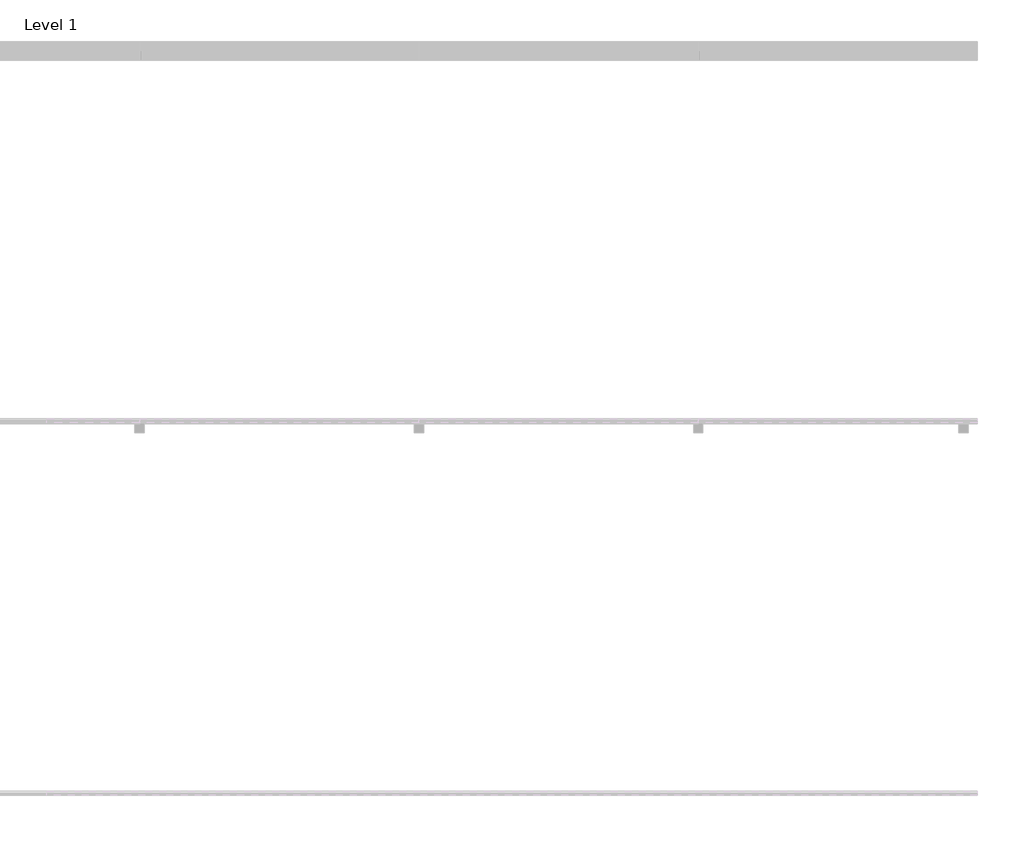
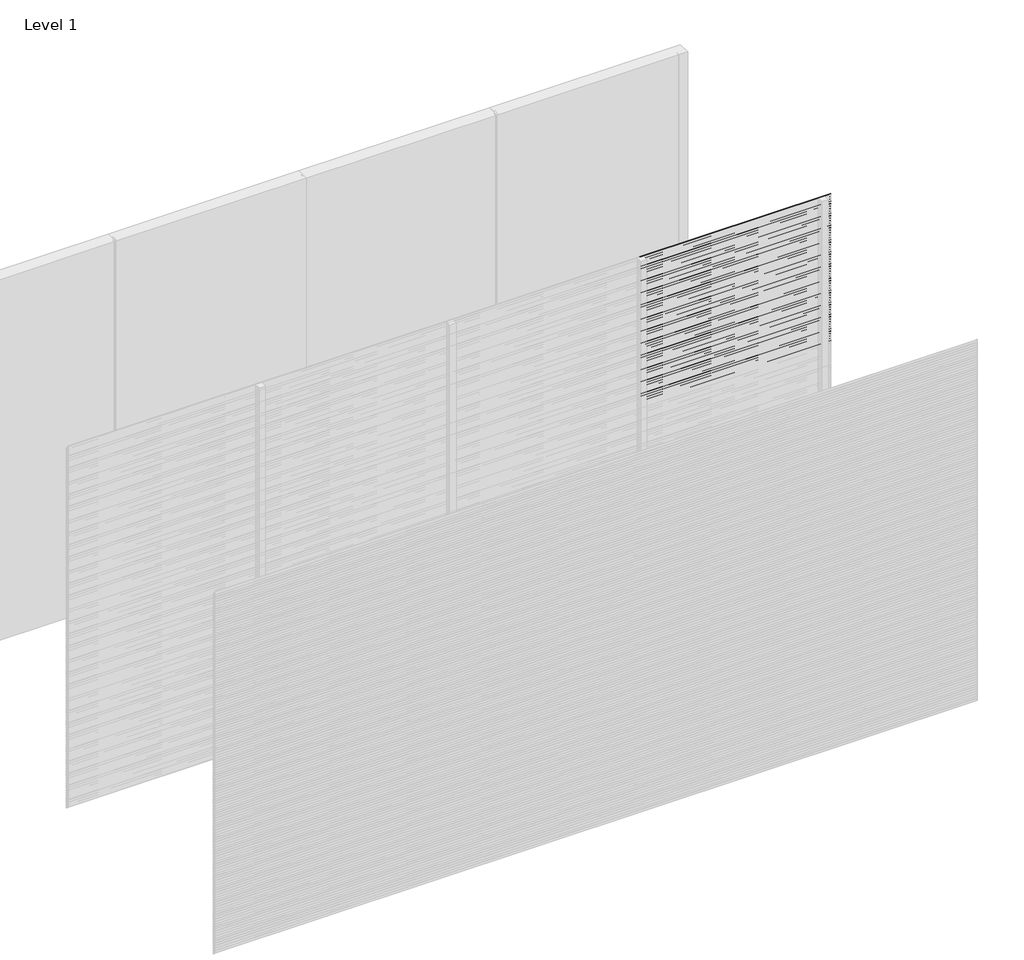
# One storey, part 15 of 31: 98 proxies.
"""IFC4 building model written with IfcOpenShell, lengths in millimetres."""

from ifc_helpers import new_model, si_unit, frame, origin, place, context, project, spatial, polyline, outline, extrude, element, save

model = new_model("IFC4")

# Units and contexts
model_context = context("Model", 3, world=origin())
ifc_project = project(units=[si_unit("LENGTHUNIT", "METRE", prefix="MILLI")], contexts=[model_context])

# Site, building, storey
site = spatial("IfcSite", under=ifc_project)
building = spatial("IfcBuilding", under=site)
storey = spatial("IfcBuildingStorey", under=building, Name="Level 1", Elevation=0.0)

# Proxies
placement = place(None, origin())
element("IfcBuildingElementProxy", 1, Name="Wall Sweeps", at=placement, inside=storey, context=model_context, shape_type="SweptSolid", body=[
    extrude(outline(polyline([(-11995.0, 740.0), (-11995.0, 728.942893), (-11976.0, 713.0), (-11976.0, 700.0), (-11997.0, 717.6210923), (-11997.0, 740.0), (-11995.0, 740.0)])), frame((3000.0, 0.0, 0.0), z_axis=(1.0, 0.0, 0.0), x_axis=(0.0, 1.0, 0.0)), (0.0, 0.0, 1.0), 1500.0),
])
element("IfcBuildingElementProxy", 2, Name="Wall Sweeps", at=placement, inside=storey, context=model_context, shape_type="SweptSolid", body=[
    extrude(outline(polyline([(-11995.0, 720.0), (-11995.0, 708.942893), (-11976.0, 693.0), (-11976.0, 680.0), (-11997.0, 697.6210923), (-11997.0, 720.0), (-11995.0, 720.0)])), frame((3000.0, 0.0, 0.0), z_axis=(1.0, 0.0, 0.0), x_axis=(0.0, 1.0, 0.0)), (0.0, 0.0, 1.0), 1500.0),
])
element("IfcBuildingElementProxy", 3, Name="Wall Sweeps", at=placement, inside=storey, context=model_context, shape_type="SweptSolid", body=[
    extrude(outline(polyline([(-11995.0, 700.0), (-11995.0, 688.942893), (-11976.0, 673.0), (-11976.0, 660.0), (-11997.0, 677.6210923), (-11997.0, 700.0), (-11995.0, 700.0)])), frame((3000.0, 0.0, 0.0), z_axis=(1.0, 0.0, 0.0), x_axis=(0.0, 1.0, 0.0)), (0.0, 0.0, 1.0), 1500.0),
])
element("IfcBuildingElementProxy", 4, Name="Wall Sweeps", at=placement, inside=storey, context=model_context, shape_type="SweptSolid", body=[
    extrude(outline(polyline([(-11995.0, 680.0), (-11995.0, 668.942893), (-11976.0, 653.0), (-11976.0, 640.0), (-11997.0, 657.6210923), (-11997.0, 680.0), (-11995.0, 680.0)])), frame((3000.0, 0.0, 0.0), z_axis=(1.0, 0.0, 0.0), x_axis=(0.0, 1.0, 0.0)), (0.0, 0.0, 1.0), 1500.0),
])
element("IfcBuildingElementProxy", 5, Name="Wall Sweeps", at=placement, inside=storey, context=model_context, shape_type="SweptSolid", body=[
    extrude(outline(polyline([(-11995.0, 660.0), (-11995.0, 648.942893), (-11976.0, 633.0), (-11976.0, 620.0), (-11997.0, 637.6210923), (-11997.0, 660.0), (-11995.0, 660.0)])), frame((3000.0, 0.0, 0.0), z_axis=(1.0, 0.0, 0.0), x_axis=(0.0, 1.0, 0.0)), (0.0, 0.0, 1.0), 1500.0),
])
element("IfcBuildingElementProxy", 6, Name="Wall Sweeps", at=placement, inside=storey, context=model_context, shape_type="SweptSolid", body=[
    extrude(outline(polyline([(-11995.0, 640.0), (-11995.0, 628.942893), (-11976.0, 613.0), (-11976.0, 600.0), (-11997.0, 617.6210923), (-11997.0, 640.0), (-11995.0, 640.0)])), frame((3000.0, 0.0, 0.0), z_axis=(1.0, 0.0, 0.0), x_axis=(0.0, 1.0, 0.0)), (0.0, 0.0, 1.0), 1500.0),
])
element("IfcBuildingElementProxy", 7, Name="Wall Sweeps", at=placement, inside=storey, context=model_context, shape_type="SweptSolid", body=[
    extrude(outline(polyline([(-11995.0, 620.0), (-11995.0, 608.942893), (-11976.0, 593.0), (-11976.0, 580.0), (-11997.0, 597.6210923), (-11997.0, 620.0), (-11995.0, 620.0)])), frame((3000.0, 0.0, 0.0), z_axis=(1.0, 0.0, 0.0), x_axis=(0.0, 1.0, 0.0)), (0.0, 0.0, 1.0), 1500.0),
])
element("IfcBuildingElementProxy", 8, Name="Wall Sweeps", at=placement, inside=storey, context=model_context, shape_type="SweptSolid", body=[
    extrude(outline(polyline([(-11995.0, 600.0), (-11995.0, 588.942893), (-11976.0, 573.0), (-11976.0, 560.0), (-11997.0, 577.6210923), (-11997.0, 600.0), (-11995.0, 600.0)])), frame((3000.0, 0.0, 0.0), z_axis=(1.0, 0.0, 0.0), x_axis=(0.0, 1.0, 0.0)), (0.0, 0.0, 1.0), 1500.0),
])
element("IfcBuildingElementProxy", 9, Name="Wall Sweeps", at=placement, inside=storey, context=model_context, shape_type="SweptSolid", body=[
    extrude(outline(polyline([(-11995.0, 580.0), (-11995.0, 568.942893), (-11976.0, 553.0), (-11976.0, 540.0), (-11997.0, 557.6210923), (-11997.0, 580.0), (-11995.0, 580.0)])), frame((3000.0, 0.0, 0.0), z_axis=(1.0, 0.0, 0.0), x_axis=(0.0, 1.0, 0.0)), (0.0, 0.0, 1.0), 1500.0),
])
element("IfcBuildingElementProxy", 10, Name="Wall Sweeps", at=placement, inside=storey, context=model_context, shape_type="SweptSolid", body=[
    extrude(outline(polyline([(-11995.0, 560.0), (-11995.0, 548.942893), (-11976.0, 533.0), (-11976.0, 520.0), (-11997.0, 537.6210923), (-11997.0, 560.0), (-11995.0, 560.0)])), frame((3000.0, 0.0, 0.0), z_axis=(1.0, 0.0, 0.0), x_axis=(0.0, 1.0, 0.0)), (0.0, 0.0, 1.0), 1500.0),
])
element("IfcBuildingElementProxy", 11, Name="Wall Sweeps", at=placement, inside=storey, context=model_context, shape_type="SweptSolid", body=[
    extrude(outline(polyline([(-11995.0, 540.0), (-11995.0, 528.942893), (-11976.0, 513.0), (-11976.0, 500.0), (-11997.0, 517.6210923), (-11997.0, 540.0), (-11995.0, 540.0)])), frame((3000.0, 0.0, 0.0), z_axis=(1.0, 0.0, 0.0), x_axis=(0.0, 1.0, 0.0)), (0.0, 0.0, 1.0), 1500.0),
])
element("IfcBuildingElementProxy", 12, Name="Wall Sweeps", at=placement, inside=storey, context=model_context, shape_type="SweptSolid", body=[
    extrude(outline(polyline([(-11995.0, 520.0), (-11995.0, 508.942893), (-11976.0, 493.0), (-11976.0, 480.0), (-11997.0, 497.6210923), (-11997.0, 520.0), (-11995.0, 520.0)])), frame((3000.0, 0.0, 0.0), z_axis=(1.0, 0.0, 0.0), x_axis=(0.0, 1.0, 0.0)), (0.0, 0.0, 1.0), 1500.0),
])
element("IfcBuildingElementProxy", 13, Name="Wall Sweeps", at=placement, inside=storey, context=model_context, shape_type="SweptSolid", body=[
    extrude(outline(polyline([(-11995.0, 500.0), (-11995.0, 488.942893), (-11976.0, 473.0), (-11976.0, 460.0), (-11997.0, 477.6210923), (-11997.0, 500.0), (-11995.0, 500.0)])), frame((3000.0, 0.0, 0.0), z_axis=(1.0, 0.0, 0.0), x_axis=(0.0, 1.0, 0.0)), (0.0, 0.0, 1.0), 1500.0),
])
element("IfcBuildingElementProxy", 14, Name="Wall Sweeps", at=placement, inside=storey, context=model_context, shape_type="SweptSolid", body=[
    extrude(outline(polyline([(-11995.0, 480.0), (-11995.0, 468.942893), (-11976.0, 453.0), (-11976.0, 440.0), (-11997.0, 457.6210923), (-11997.0, 480.0), (-11995.0, 480.0)])), frame((3000.0, 0.0, 0.0), z_axis=(1.0, 0.0, 0.0), x_axis=(0.0, 1.0, 0.0)), (0.0, 0.0, 1.0), 1500.0),
])
element("IfcBuildingElementProxy", 15, Name="Wall Sweeps", at=placement, inside=storey, context=model_context, shape_type="SweptSolid", body=[
    extrude(outline(polyline([(-11995.0, 460.0), (-11995.0, 448.942893), (-11976.0, 433.0), (-11976.0, 420.0), (-11997.0, 437.6210923), (-11997.0, 460.0), (-11995.0, 460.0)])), frame((3000.0, 0.0, 0.0), z_axis=(1.0, 0.0, 0.0), x_axis=(0.0, 1.0, 0.0)), (0.0, 0.0, 1.0), 1500.0),
])
element("IfcBuildingElementProxy", 16, Name="Wall Sweeps", at=placement, inside=storey, context=model_context, shape_type="SweptSolid", body=[
    extrude(outline(polyline([(-11995.0, 440.0), (-11995.0, 428.942893), (-11976.0, 413.0), (-11976.0, 400.0), (-11997.0, 417.6210923), (-11997.0, 440.0), (-11995.0, 440.0)])), frame((3000.0, 0.0, 0.0), z_axis=(1.0, 0.0, 0.0), x_axis=(0.0, 1.0, 0.0)), (0.0, 0.0, 1.0), 1500.0),
])
element("IfcBuildingElementProxy", 17, Name="Wall Sweeps", at=placement, inside=storey, context=model_context, shape_type="SweptSolid", body=[
    extrude(outline(polyline([(-11995.0, 420.0), (-11995.0, 408.942893), (-11976.0, 393.0), (-11976.0, 380.0), (-11997.0, 397.6210923), (-11997.0, 420.0), (-11995.0, 420.0)])), frame((3000.0, 0.0, 0.0), z_axis=(1.0, 0.0, 0.0), x_axis=(0.0, 1.0, 0.0)), (0.0, 0.0, 1.0), 1500.0),
])
element("IfcBuildingElementProxy", 18, Name="Wall Sweeps", at=placement, inside=storey, context=model_context, shape_type="SweptSolid", body=[
    extrude(outline(polyline([(-11995.0, 400.0), (-11995.0, 388.942893), (-11976.0, 373.0), (-11976.0, 360.0), (-11997.0, 377.6210923), (-11997.0, 400.0), (-11995.0, 400.0)])), frame((3000.0, 0.0, 0.0), z_axis=(1.0, 0.0, 0.0), x_axis=(0.0, 1.0, 0.0)), (0.0, 0.0, 1.0), 1500.0),
])
element("IfcBuildingElementProxy", 19, Name="Wall Sweeps", at=placement, inside=storey, context=model_context, shape_type="SweptSolid", body=[
    extrude(outline(polyline([(-11995.0, 380.0), (-11995.0, 368.942893), (-11976.0, 353.0), (-11976.0, 340.0), (-11997.0, 357.6210923), (-11997.0, 380.0), (-11995.0, 380.0)])), frame((3000.0, 0.0, 0.0), z_axis=(1.0, 0.0, 0.0), x_axis=(0.0, 1.0, 0.0)), (0.0, 0.0, 1.0), 1500.0),
])
element("IfcBuildingElementProxy", 20, Name="Wall Sweeps", at=placement, inside=storey, context=model_context, shape_type="SweptSolid", body=[
    extrude(outline(polyline([(-11995.0, 360.0), (-11995.0, 348.942893), (-11976.0, 333.0), (-11976.0, 320.0), (-11997.0, 337.6210923), (-11997.0, 360.0), (-11995.0, 360.0)])), frame((3000.0, 0.0, 0.0), z_axis=(1.0, 0.0, 0.0), x_axis=(0.0, 1.0, 0.0)), (0.0, 0.0, 1.0), 1500.0),
])
element("IfcBuildingElementProxy", 21, Name="Wall Sweeps", at=placement, inside=storey, context=model_context, shape_type="SweptSolid", body=[
    extrude(outline(polyline([(-11995.0, 340.0), (-11995.0, 328.942893), (-11976.0, 313.0), (-11976.0, 300.0), (-11997.0, 317.6210923), (-11997.0, 340.0), (-11995.0, 340.0)])), frame((3000.0, 0.0, 0.0), z_axis=(1.0, 0.0, 0.0), x_axis=(0.0, 1.0, 0.0)), (0.0, 0.0, 1.0), 1500.0),
])
element("IfcBuildingElementProxy", 22, Name="Wall Sweeps", at=placement, inside=storey, context=model_context, shape_type="SweptSolid", body=[
    extrude(outline(polyline([(-11995.0, 320.0), (-11995.0, 308.942893), (-11976.0, 293.0), (-11976.0, 280.0), (-11997.0, 297.6210923), (-11997.0, 320.0), (-11995.0, 320.0)])), frame((3000.0, 0.0, 0.0), z_axis=(1.0, 0.0, 0.0), x_axis=(0.0, 1.0, 0.0)), (0.0, 0.0, 1.0), 1500.0),
])
element("IfcBuildingElementProxy", 23, Name="Wall Sweeps", at=placement, inside=storey, context=model_context, shape_type="SweptSolid", body=[
    extrude(outline(polyline([(-11995.0, 300.0), (-11995.0, 288.942893), (-11976.0, 273.0), (-11976.0, 260.0), (-11997.0, 277.6210923), (-11997.0, 300.0), (-11995.0, 300.0)])), frame((3000.0, 0.0, 0.0), z_axis=(1.0, 0.0, 0.0), x_axis=(0.0, 1.0, 0.0)), (0.0, 0.0, 1.0), 1500.0),
])
element("IfcBuildingElementProxy", 24, Name="Wall Sweeps", at=placement, inside=storey, context=model_context, shape_type="SweptSolid", body=[
    extrude(outline(polyline([(-11995.0, 280.0), (-11995.0, 268.942893), (-11976.0, 253.0), (-11976.0, 240.0), (-11997.0, 257.6210923), (-11997.0, 280.0), (-11995.0, 280.0)])), frame((3000.0, 0.0, 0.0), z_axis=(1.0, 0.0, 0.0), x_axis=(0.0, 1.0, 0.0)), (0.0, 0.0, 1.0), 1500.0),
])
element("IfcBuildingElementProxy", 25, Name="Wall Sweeps", at=placement, inside=storey, context=model_context, shape_type="SweptSolid", body=[
    extrude(outline(polyline([(-11995.0, 260.0), (-11995.0, 248.942893), (-11976.0, 233.0), (-11976.0, 220.0), (-11997.0, 237.6210923), (-11997.0, 260.0), (-11995.0, 260.0)])), frame((3000.0, 0.0, 0.0), z_axis=(1.0, 0.0, 0.0), x_axis=(0.0, 1.0, 0.0)), (0.0, 0.0, 1.0), 1500.0),
])
element("IfcBuildingElementProxy", 26, Name="Wall Sweeps", at=placement, inside=storey, context=model_context, shape_type="SweptSolid", body=[
    extrude(outline(polyline([(-11995.0, 240.0), (-11995.0, 228.942893), (-11976.0, 213.0), (-11976.0, 200.0), (-11997.0, 217.6210923), (-11997.0, 240.0), (-11995.0, 240.0)])), frame((3000.0, 0.0, 0.0), z_axis=(1.0, 0.0, 0.0), x_axis=(0.0, 1.0, 0.0)), (0.0, 0.0, 1.0), 1500.0),
])
element("IfcBuildingElementProxy", 27, Name="Wall Sweeps", at=placement, inside=storey, context=model_context, shape_type="SweptSolid", body=[
    extrude(outline(polyline([(-11995.0, 220.0), (-11995.0, 208.942893), (-11976.0, 193.0), (-11976.0, 180.0), (-11997.0, 197.6210923), (-11997.0, 220.0), (-11995.0, 220.0)])), frame((3000.0, 0.0, 0.0), z_axis=(1.0, 0.0, 0.0), x_axis=(0.0, 1.0, 0.0)), (0.0, 0.0, 1.0), 1500.0),
])
element("IfcBuildingElementProxy", 28, Name="Wall Sweeps", at=placement, inside=storey, context=model_context, shape_type="SweptSolid", body=[
    extrude(outline(polyline([(-11995.0, 200.0), (-11995.0, 188.942893), (-11976.0, 173.0), (-11976.0, 160.0), (-11997.0, 177.6210923), (-11997.0, 200.0), (-11995.0, 200.0)])), frame((3000.0, 0.0, 0.0), z_axis=(1.0, 0.0, 0.0), x_axis=(0.0, 1.0, 0.0)), (0.0, 0.0, 1.0), 1500.0),
])
element("IfcBuildingElementProxy", 29, Name="Wall Sweeps", at=placement, inside=storey, context=model_context, shape_type="SweptSolid", body=[
    extrude(outline(polyline([(-11995.0, 180.0), (-11995.0, 168.942893), (-11976.0, 153.0), (-11976.0, 140.0), (-11997.0, 157.6210923), (-11997.0, 180.0), (-11995.0, 180.0)])), frame((3000.0, 0.0, 0.0), z_axis=(1.0, 0.0, 0.0), x_axis=(0.0, 1.0, 0.0)), (0.0, 0.0, 1.0), 1500.0),
])
element("IfcBuildingElementProxy", 30, Name="Wall Sweeps", at=placement, inside=storey, context=model_context, shape_type="SweptSolid", body=[
    extrude(outline(polyline([(-11995.0, 160.0), (-11995.0, 148.942893), (-11976.0, 133.0), (-11976.0, 120.0), (-11997.0, 137.6210923), (-11997.0, 160.0), (-11995.0, 160.0)])), frame((3000.0, 0.0, 0.0), z_axis=(1.0, 0.0, 0.0), x_axis=(0.0, 1.0, 0.0)), (0.0, 0.0, 1.0), 1500.0),
])
element("IfcBuildingElementProxy", 31, Name="Wall Sweeps", at=placement, inside=storey, context=model_context, shape_type="SweptSolid", body=[
    extrude(outline(polyline([(-11995.0, 140.0), (-11995.0, 128.942893), (-11976.0, 113.0), (-11976.0, 100.0), (-11997.0, 117.6210923), (-11997.0, 140.0), (-11995.0, 140.0)])), frame((3000.0, 0.0, 0.0), z_axis=(1.0, 0.0, 0.0), x_axis=(0.0, 1.0, 0.0)), (0.0, 0.0, 1.0), 1500.0),
])
element("IfcBuildingElementProxy", 32, Name="Wall Sweeps", at=placement, inside=storey, context=model_context, shape_type="SweptSolid", body=[
    extrude(outline(polyline([(-11995.0, 120.0), (-11995.0, 108.942893), (-11976.0, 93.0), (-11976.0, 80.0), (-11997.0, 97.6210923), (-11997.0, 120.0), (-11995.0, 120.0)])), frame((3000.0, 0.0, 0.0), z_axis=(1.0, 0.0, 0.0), x_axis=(0.0, 1.0, 0.0)), (0.0, 0.0, 1.0), 1500.0),
])
element("IfcBuildingElementProxy", 33, Name="Wall Sweeps", at=placement, inside=storey, context=model_context, shape_type="SweptSolid", body=[
    extrude(outline(polyline([(-11995.0, 100.0), (-11995.0, 88.942893), (-11976.0, 73.0), (-11976.0, 60.0), (-11997.0, 77.6210923), (-11997.0, 100.0), (-11995.0, 100.0)])), frame((3000.0, 0.0, 0.0), z_axis=(1.0, 0.0, 0.0), x_axis=(0.0, 1.0, 0.0)), (0.0, 0.0, 1.0), 1500.0),
])
element("IfcBuildingElementProxy", 34, Name="Wall Sweeps", at=placement, inside=storey, context=model_context, shape_type="SweptSolid", body=[
    extrude(outline(polyline([(-11995.0, 80.0), (-11995.0, 68.942893), (-11976.0, 53.0), (-11976.0, 40.0), (-11997.0, 57.6210923), (-11997.0, 80.0), (-11995.0, 80.0)])), frame((3000.0, 0.0, 0.0), z_axis=(1.0, 0.0, 0.0), x_axis=(0.0, 1.0, 0.0)), (0.0, 0.0, 1.0), 1500.0),
])
element("IfcBuildingElementProxy", 35, Name="Wall Sweeps", at=placement, inside=storey, context=model_context, shape_type="SweptSolid", body=[
    extrude(outline(polyline([(-11995.0, 60.0), (-11995.0, 48.942893), (-11976.0, 33.0), (-11976.0, 20.0), (-11997.0, 37.6210923), (-11997.0, 60.0), (-11995.0, 60.0)])), frame((3000.0, 0.0, 0.0), z_axis=(1.0, 0.0, 0.0), x_axis=(0.0, 1.0, 0.0)), (0.0, 0.0, 1.0), 1500.0),
])
element("IfcBuildingElementProxy", 36, Name="Wall Sweeps", at=placement, inside=storey, context=model_context, shape_type="SweptSolid", body=[
    extrude(outline(polyline([(-11995.0, 40.0), (-11995.0, 28.942893), (-11976.0, 13.0), (-11976.0, 0.0), (-11997.0, 17.6210923), (-11997.0, 40.0), (-11995.0, 40.0)])), frame((3000.0, 0.0, 0.0), z_axis=(1.0, 0.0, 0.0), x_axis=(0.0, 1.0, 0.0)), (0.0, 0.0, 1.0), 1500.0),
])
element("IfcBuildingElementProxy", 37, Name="Wall Sweeps", at=placement, inside=storey, context=model_context, shape_type="SweptSolid", body=[
    extrude(outline(polyline([(-11995.0, 20.0), (-11995.0, 8.942893), (-11976.0, -7.0), (-11976.0, -20.0), (-11997.0, -2.3789077), (-11997.0, 20.0), (-11995.0, 20.0)])), frame((3000.0, 0.0, 0.0), z_axis=(1.0, 0.0, 0.0), x_axis=(0.0, 1.0, 0.0)), (0.0, 0.0, 1.0), 1500.0),
])
element("IfcBuildingElementProxy", 38, Name="Wall Sweeps", at=placement, inside=storey, context=model_context, shape_type="SweptSolid", body=[
    extrude(outline(polyline([(-11995.0, 3000.0), (-11995.0, 2988.942893), (-11976.0, 2973.0), (-11976.0, 2960.0), (-11997.0, 2977.6210923), (-11997.0, 3000.0), (-11995.0, 3000.0)])), frame((4500.0, 0.0, 0.0), z_axis=(1.0, 0.0, 0.0), x_axis=(0.0, 1.0, 0.0)), (0.0, 0.0, 1.0), 1500.0),
])
element("IfcBuildingElementProxy", 39, Name="Wall Sweeps", at=placement, inside=storey, context=model_context, shape_type="SweptSolid", body=[
    extrude(outline(polyline([(-11995.0, 2980.0), (-11995.0, 2968.942893), (-11976.0, 2953.0), (-11976.0, 2940.0), (-11997.0, 2957.6210923), (-11997.0, 2980.0), (-11995.0, 2980.0)])), frame((4500.0, 0.0, 0.0), z_axis=(1.0, 0.0, 0.0), x_axis=(0.0, 1.0, 0.0)), (0.0, 0.0, 1.0), 1500.0),
])
element("IfcBuildingElementProxy", 40, Name="Wall Sweeps", at=placement, inside=storey, context=model_context, shape_type="SweptSolid", body=[
    extrude(outline(polyline([(-11995.0, 2960.0), (-11995.0, 2948.942893), (-11976.0, 2933.0), (-11976.0, 2920.0), (-11997.0, 2937.6210923), (-11997.0, 2960.0), (-11995.0, 2960.0)])), frame((4500.0, 0.0, 0.0), z_axis=(1.0, 0.0, 0.0), x_axis=(0.0, 1.0, 0.0)), (0.0, 0.0, 1.0), 1500.0),
])
element("IfcBuildingElementProxy", 41, Name="Wall Sweeps", at=placement, inside=storey, context=model_context, shape_type="SweptSolid", body=[
    extrude(outline(polyline([(-11995.0, 2940.0), (-11995.0, 2928.942893), (-11976.0, 2913.0), (-11976.0, 2900.0), (-11997.0, 2917.6210923), (-11997.0, 2940.0), (-11995.0, 2940.0)])), frame((4500.0, 0.0, 0.0), z_axis=(1.0, 0.0, 0.0), x_axis=(0.0, 1.0, 0.0)), (0.0, 0.0, 1.0), 1500.0),
])
element("IfcBuildingElementProxy", 42, Name="Wall Sweeps", at=placement, inside=storey, context=model_context, shape_type="SweptSolid", body=[
    extrude(outline(polyline([(-11995.0, 2920.0), (-11995.0, 2908.942893), (-11976.0, 2893.0), (-11976.0, 2880.0), (-11997.0, 2897.6210923), (-11997.0, 2920.0), (-11995.0, 2920.0)])), frame((4500.0, 0.0, 0.0), z_axis=(1.0, 0.0, 0.0), x_axis=(0.0, 1.0, 0.0)), (0.0, 0.0, 1.0), 1500.0),
])
element("IfcBuildingElementProxy", 43, Name="Wall Sweeps", at=placement, inside=storey, context=model_context, shape_type="SweptSolid", body=[
    extrude(outline(polyline([(-11995.0, 2900.0), (-11995.0, 2888.942893), (-11976.0, 2873.0), (-11976.0, 2860.0), (-11997.0, 2877.6210923), (-11997.0, 2900.0), (-11995.0, 2900.0)])), frame((4500.0, 0.0, 0.0), z_axis=(1.0, 0.0, 0.0), x_axis=(0.0, 1.0, 0.0)), (0.0, 0.0, 1.0), 1500.0),
])
element("IfcBuildingElementProxy", 44, Name="Wall Sweeps", at=placement, inside=storey, context=model_context, shape_type="SweptSolid", body=[
    extrude(outline(polyline([(-11995.0, 2880.0), (-11995.0, 2868.942893), (-11976.0, 2853.0), (-11976.0, 2840.0), (-11997.0, 2857.6210923), (-11997.0, 2880.0), (-11995.0, 2880.0)])), frame((4500.0, 0.0, 0.0), z_axis=(1.0, 0.0, 0.0), x_axis=(0.0, 1.0, 0.0)), (0.0, 0.0, 1.0), 1500.0),
])
element("IfcBuildingElementProxy", 45, Name="Wall Sweeps", at=placement, inside=storey, context=model_context, shape_type="SweptSolid", body=[
    extrude(outline(polyline([(-11995.0, 2860.0), (-11995.0, 2848.942893), (-11976.0, 2833.0), (-11976.0, 2820.0), (-11997.0, 2837.6210923), (-11997.0, 2860.0), (-11995.0, 2860.0)])), frame((4500.0, 0.0, 0.0), z_axis=(1.0, 0.0, 0.0), x_axis=(0.0, 1.0, 0.0)), (0.0, 0.0, 1.0), 1500.0),
])
element("IfcBuildingElementProxy", 46, Name="Wall Sweeps", at=placement, inside=storey, context=model_context, shape_type="SweptSolid", body=[
    extrude(outline(polyline([(-11995.0, 2840.0), (-11995.0, 2828.942893), (-11976.0, 2813.0), (-11976.0, 2800.0), (-11997.0, 2817.6210923), (-11997.0, 2840.0), (-11995.0, 2840.0)])), frame((4500.0, 0.0, 0.0), z_axis=(1.0, 0.0, 0.0), x_axis=(0.0, 1.0, 0.0)), (0.0, 0.0, 1.0), 1500.0),
])
element("IfcBuildingElementProxy", 47, Name="Wall Sweeps", at=placement, inside=storey, context=model_context, shape_type="SweptSolid", body=[
    extrude(outline(polyline([(-11995.0, 2820.0), (-11995.0, 2808.942893), (-11976.0, 2793.0), (-11976.0, 2780.0), (-11997.0, 2797.6210923), (-11997.0, 2820.0), (-11995.0, 2820.0)])), frame((4500.0, 0.0, 0.0), z_axis=(1.0, 0.0, 0.0), x_axis=(0.0, 1.0, 0.0)), (0.0, 0.0, 1.0), 1500.0),
])
element("IfcBuildingElementProxy", 48, Name="Wall Sweeps", at=placement, inside=storey, context=model_context, shape_type="SweptSolid", body=[
    extrude(outline(polyline([(-11995.0, 2800.0), (-11995.0, 2788.942893), (-11976.0, 2773.0), (-11976.0, 2760.0), (-11997.0, 2777.6210923), (-11997.0, 2800.0), (-11995.0, 2800.0)])), frame((4500.0, 0.0, 0.0), z_axis=(1.0, 0.0, 0.0), x_axis=(0.0, 1.0, 0.0)), (0.0, 0.0, 1.0), 1500.0),
])
element("IfcBuildingElementProxy", 49, Name="Wall Sweeps", at=placement, inside=storey, context=model_context, shape_type="SweptSolid", body=[
    extrude(outline(polyline([(-11995.0, 2780.0), (-11995.0, 2768.942893), (-11976.0, 2753.0), (-11976.0, 2740.0), (-11997.0, 2757.6210923), (-11997.0, 2780.0), (-11995.0, 2780.0)])), frame((4500.0, 0.0, 0.0), z_axis=(1.0, 0.0, 0.0), x_axis=(0.0, 1.0, 0.0)), (0.0, 0.0, 1.0), 1500.0),
])
element("IfcBuildingElementProxy", 50, Name="Wall Sweeps", at=placement, inside=storey, context=model_context, shape_type="SweptSolid", body=[
    extrude(outline(polyline([(-11995.0, 2760.0), (-11995.0, 2748.942893), (-11976.0, 2733.0), (-11976.0, 2720.0), (-11997.0, 2737.6210923), (-11997.0, 2760.0), (-11995.0, 2760.0)])), frame((4500.0, 0.0, 0.0), z_axis=(1.0, 0.0, 0.0), x_axis=(0.0, 1.0, 0.0)), (0.0, 0.0, 1.0), 1500.0),
])
element("IfcBuildingElementProxy", 51, Name="Wall Sweeps", at=placement, inside=storey, context=model_context, shape_type="SweptSolid", body=[
    extrude(outline(polyline([(-11995.0, 2740.0), (-11995.0, 2728.942893), (-11976.0, 2713.0), (-11976.0, 2700.0), (-11997.0, 2717.6210923), (-11997.0, 2740.0), (-11995.0, 2740.0)])), frame((4500.0, 0.0, 0.0), z_axis=(1.0, 0.0, 0.0), x_axis=(0.0, 1.0, 0.0)), (0.0, 0.0, 1.0), 1500.0),
])
element("IfcBuildingElementProxy", 52, Name="Wall Sweeps", at=placement, inside=storey, context=model_context, shape_type="SweptSolid", body=[
    extrude(outline(polyline([(-11995.0, 2720.0), (-11995.0, 2708.942893), (-11976.0, 2693.0), (-11976.0, 2680.0), (-11997.0, 2697.6210923), (-11997.0, 2720.0), (-11995.0, 2720.0)])), frame((4500.0, 0.0, 0.0), z_axis=(1.0, 0.0, 0.0), x_axis=(0.0, 1.0, 0.0)), (0.0, 0.0, 1.0), 1500.0),
])
element("IfcBuildingElementProxy", 53, Name="Wall Sweeps", at=placement, inside=storey, context=model_context, shape_type="SweptSolid", body=[
    extrude(outline(polyline([(-11995.0, 2700.0), (-11995.0, 2688.942893), (-11976.0, 2673.0), (-11976.0, 2660.0), (-11997.0, 2677.6210923), (-11997.0, 2700.0), (-11995.0, 2700.0)])), frame((4500.0, 0.0, 0.0), z_axis=(1.0, 0.0, 0.0), x_axis=(0.0, 1.0, 0.0)), (0.0, 0.0, 1.0), 1500.0),
])
element("IfcBuildingElementProxy", 54, Name="Wall Sweeps", at=placement, inside=storey, context=model_context, shape_type="SweptSolid", body=[
    extrude(outline(polyline([(-11995.0, 2680.0), (-11995.0, 2668.942893), (-11976.0, 2653.0), (-11976.0, 2640.0), (-11997.0, 2657.6210923), (-11997.0, 2680.0), (-11995.0, 2680.0)])), frame((4500.0, 0.0, 0.0), z_axis=(1.0, 0.0, 0.0), x_axis=(0.0, 1.0, 0.0)), (0.0, 0.0, 1.0), 1500.0),
])
element("IfcBuildingElementProxy", 55, Name="Wall Sweeps", at=placement, inside=storey, context=model_context, shape_type="SweptSolid", body=[
    extrude(outline(polyline([(-11995.0, 2660.0), (-11995.0, 2648.942893), (-11976.0, 2633.0), (-11976.0, 2620.0), (-11997.0, 2637.6210923), (-11997.0, 2660.0), (-11995.0, 2660.0)])), frame((4500.0, 0.0, 0.0), z_axis=(1.0, 0.0, 0.0), x_axis=(0.0, 1.0, 0.0)), (0.0, 0.0, 1.0), 1500.0),
])
element("IfcBuildingElementProxy", 56, Name="Wall Sweeps", at=placement, inside=storey, context=model_context, shape_type="SweptSolid", body=[
    extrude(outline(polyline([(-11995.0, 2640.0), (-11995.0, 2628.942893), (-11976.0, 2613.0), (-11976.0, 2600.0), (-11997.0, 2617.6210923), (-11997.0, 2640.0), (-11995.0, 2640.0)])), frame((4500.0, 0.0, 0.0), z_axis=(1.0, 0.0, 0.0), x_axis=(0.0, 1.0, 0.0)), (0.0, 0.0, 1.0), 1500.0),
])
element("IfcBuildingElementProxy", 57, Name="Wall Sweeps", at=placement, inside=storey, context=model_context, shape_type="SweptSolid", body=[
    extrude(outline(polyline([(-11995.0, 2620.0), (-11995.0, 2608.942893), (-11976.0, 2593.0), (-11976.0, 2580.0), (-11997.0, 2597.6210923), (-11997.0, 2620.0), (-11995.0, 2620.0)])), frame((4500.0, 0.0, 0.0), z_axis=(1.0, 0.0, 0.0), x_axis=(0.0, 1.0, 0.0)), (0.0, 0.0, 1.0), 1500.0),
])
element("IfcBuildingElementProxy", 58, Name="Wall Sweeps", at=placement, inside=storey, context=model_context, shape_type="SweptSolid", body=[
    extrude(outline(polyline([(-11995.0, 2600.0), (-11995.0, 2588.942893), (-11976.0, 2573.0), (-11976.0, 2560.0), (-11997.0, 2577.6210923), (-11997.0, 2600.0), (-11995.0, 2600.0)])), frame((4500.0, 0.0, 0.0), z_axis=(1.0, 0.0, 0.0), x_axis=(0.0, 1.0, 0.0)), (0.0, 0.0, 1.0), 1500.0),
])
element("IfcBuildingElementProxy", 59, Name="Wall Sweeps", at=placement, inside=storey, context=model_context, shape_type="SweptSolid", body=[
    extrude(outline(polyline([(-11995.0, 2580.0), (-11995.0, 2568.942893), (-11976.0, 2553.0), (-11976.0, 2540.0), (-11997.0, 2557.6210923), (-11997.0, 2580.0), (-11995.0, 2580.0)])), frame((4500.0, 0.0, 0.0), z_axis=(1.0, 0.0, 0.0), x_axis=(0.0, 1.0, 0.0)), (0.0, 0.0, 1.0), 1500.0),
])
element("IfcBuildingElementProxy", 60, Name="Wall Sweeps", at=placement, inside=storey, context=model_context, shape_type="SweptSolid", body=[
    extrude(outline(polyline([(-11995.0, 2560.0), (-11995.0, 2548.942893), (-11976.0, 2533.0), (-11976.0, 2520.0), (-11997.0, 2537.6210923), (-11997.0, 2560.0), (-11995.0, 2560.0)])), frame((4500.0, 0.0, 0.0), z_axis=(1.0, 0.0, 0.0), x_axis=(0.0, 1.0, 0.0)), (0.0, 0.0, 1.0), 1500.0),
])
element("IfcBuildingElementProxy", 61, Name="Wall Sweeps", at=placement, inside=storey, context=model_context, shape_type="SweptSolid", body=[
    extrude(outline(polyline([(-11995.0, 2540.0), (-11995.0, 2528.942893), (-11976.0, 2513.0), (-11976.0, 2500.0), (-11997.0, 2517.6210923), (-11997.0, 2540.0), (-11995.0, 2540.0)])), frame((4500.0, 0.0, 0.0), z_axis=(1.0, 0.0, 0.0), x_axis=(0.0, 1.0, 0.0)), (0.0, 0.0, 1.0), 1500.0),
])
element("IfcBuildingElementProxy", 62, Name="Wall Sweeps", at=placement, inside=storey, context=model_context, shape_type="SweptSolid", body=[
    extrude(outline(polyline([(-11995.0, 2520.0), (-11995.0, 2508.942893), (-11976.0, 2493.0), (-11976.0, 2480.0), (-11997.0, 2497.6210923), (-11997.0, 2520.0), (-11995.0, 2520.0)])), frame((4500.0, 0.0, 0.0), z_axis=(1.0, 0.0, 0.0), x_axis=(0.0, 1.0, 0.0)), (0.0, 0.0, 1.0), 1500.0),
])
element("IfcBuildingElementProxy", 63, Name="Wall Sweeps", at=placement, inside=storey, context=model_context, shape_type="SweptSolid", body=[
    extrude(outline(polyline([(-11995.0, 2500.0), (-11995.0, 2488.942893), (-11976.0, 2473.0), (-11976.0, 2460.0), (-11997.0, 2477.6210923), (-11997.0, 2500.0), (-11995.0, 2500.0)])), frame((4500.0, 0.0, 0.0), z_axis=(1.0, 0.0, 0.0), x_axis=(0.0, 1.0, 0.0)), (0.0, 0.0, 1.0), 1500.0),
])
element("IfcBuildingElementProxy", 64, Name="Wall Sweeps", at=placement, inside=storey, context=model_context, shape_type="SweptSolid", body=[
    extrude(outline(polyline([(-11995.0, 2480.0), (-11995.0, 2468.942893), (-11976.0, 2453.0), (-11976.0, 2440.0), (-11997.0, 2457.6210923), (-11997.0, 2480.0), (-11995.0, 2480.0)])), frame((4500.0, 0.0, 0.0), z_axis=(1.0, 0.0, 0.0), x_axis=(0.0, 1.0, 0.0)), (0.0, 0.0, 1.0), 1500.0),
])
element("IfcBuildingElementProxy", 65, Name="Wall Sweeps", at=placement, inside=storey, context=model_context, shape_type="SweptSolid", body=[
    extrude(outline(polyline([(-11995.0, 2460.0), (-11995.0, 2448.942893), (-11976.0, 2433.0), (-11976.0, 2420.0), (-11997.0, 2437.6210923), (-11997.0, 2460.0), (-11995.0, 2460.0)])), frame((4500.0, 0.0, 0.0), z_axis=(1.0, 0.0, 0.0), x_axis=(0.0, 1.0, 0.0)), (0.0, 0.0, 1.0), 1500.0),
])
element("IfcBuildingElementProxy", 66, Name="Wall Sweeps", at=placement, inside=storey, context=model_context, shape_type="SweptSolid", body=[
    extrude(outline(polyline([(-11995.0, 2440.0), (-11995.0, 2428.942893), (-11976.0, 2413.0), (-11976.0, 2400.0), (-11997.0, 2417.6210923), (-11997.0, 2440.0), (-11995.0, 2440.0)])), frame((4500.0, 0.0, 0.0), z_axis=(1.0, 0.0, 0.0), x_axis=(0.0, 1.0, 0.0)), (0.0, 0.0, 1.0), 1500.0),
])
element("IfcBuildingElementProxy", 67, Name="Wall Sweeps", at=placement, inside=storey, context=model_context, shape_type="SweptSolid", body=[
    extrude(outline(polyline([(-11995.0, 2420.0), (-11995.0, 2408.942893), (-11976.0, 2393.0), (-11976.0, 2380.0), (-11997.0, 2397.6210923), (-11997.0, 2420.0), (-11995.0, 2420.0)])), frame((4500.0, 0.0, 0.0), z_axis=(1.0, 0.0, 0.0), x_axis=(0.0, 1.0, 0.0)), (0.0, 0.0, 1.0), 1500.0),
])
element("IfcBuildingElementProxy", 68, Name="Wall Sweeps", at=placement, inside=storey, context=model_context, shape_type="SweptSolid", body=[
    extrude(outline(polyline([(-11995.0, 2400.0), (-11995.0, 2388.942893), (-11976.0, 2373.0), (-11976.0, 2360.0), (-11997.0, 2377.6210923), (-11997.0, 2400.0), (-11995.0, 2400.0)])), frame((4500.0, 0.0, 0.0), z_axis=(1.0, 0.0, 0.0), x_axis=(0.0, 1.0, 0.0)), (0.0, 0.0, 1.0), 1500.0),
])
element("IfcBuildingElementProxy", 69, Name="Wall Sweeps", at=placement, inside=storey, context=model_context, shape_type="SweptSolid", body=[
    extrude(outline(polyline([(-11995.0, 2380.0), (-11995.0, 2368.942893), (-11976.0, 2353.0), (-11976.0, 2340.0), (-11997.0, 2357.6210923), (-11997.0, 2380.0), (-11995.0, 2380.0)])), frame((4500.0, 0.0, 0.0), z_axis=(1.0, 0.0, 0.0), x_axis=(0.0, 1.0, 0.0)), (0.0, 0.0, 1.0), 1500.0),
])
element("IfcBuildingElementProxy", 70, Name="Wall Sweeps", at=placement, inside=storey, context=model_context, shape_type="SweptSolid", body=[
    extrude(outline(polyline([(-11995.0, 2360.0), (-11995.0, 2348.942893), (-11976.0, 2333.0), (-11976.0, 2320.0), (-11997.0, 2337.6210923), (-11997.0, 2360.0), (-11995.0, 2360.0)])), frame((4500.0, 0.0, 0.0), z_axis=(1.0, 0.0, 0.0), x_axis=(0.0, 1.0, 0.0)), (0.0, 0.0, 1.0), 1500.0),
])
element("IfcBuildingElementProxy", 71, Name="Wall Sweeps", at=placement, inside=storey, context=model_context, shape_type="SweptSolid", body=[
    extrude(outline(polyline([(-11995.0, 2340.0), (-11995.0, 2328.942893), (-11976.0, 2313.0), (-11976.0, 2300.0), (-11997.0, 2317.6210923), (-11997.0, 2340.0), (-11995.0, 2340.0)])), frame((4500.0, 0.0, 0.0), z_axis=(1.0, 0.0, 0.0), x_axis=(0.0, 1.0, 0.0)), (0.0, 0.0, 1.0), 1500.0),
])
element("IfcBuildingElementProxy", 72, Name="Wall Sweeps", at=placement, inside=storey, context=model_context, shape_type="SweptSolid", body=[
    extrude(outline(polyline([(-11995.0, 2320.0), (-11995.0, 2308.942893), (-11976.0, 2293.0), (-11976.0, 2280.0), (-11997.0, 2297.6210923), (-11997.0, 2320.0), (-11995.0, 2320.0)])), frame((4500.0, 0.0, 0.0), z_axis=(1.0, 0.0, 0.0), x_axis=(0.0, 1.0, 0.0)), (0.0, 0.0, 1.0), 1500.0),
])
element("IfcBuildingElementProxy", 73, Name="Wall Sweeps", at=placement, inside=storey, context=model_context, shape_type="SweptSolid", body=[
    extrude(outline(polyline([(-11995.0, 2300.0), (-11995.0, 2288.942893), (-11976.0, 2273.0), (-11976.0, 2260.0), (-11997.0, 2277.6210923), (-11997.0, 2300.0), (-11995.0, 2300.0)])), frame((4500.0, 0.0, 0.0), z_axis=(1.0, 0.0, 0.0), x_axis=(0.0, 1.0, 0.0)), (0.0, 0.0, 1.0), 1500.0),
])
element("IfcBuildingElementProxy", 74, Name="Wall Sweeps", at=placement, inside=storey, context=model_context, shape_type="SweptSolid", body=[
    extrude(outline(polyline([(-11995.0, 2280.0), (-11995.0, 2268.942893), (-11976.0, 2253.0), (-11976.0, 2240.0), (-11997.0, 2257.6210923), (-11997.0, 2280.0), (-11995.0, 2280.0)])), frame((4500.0, 0.0, 0.0), z_axis=(1.0, 0.0, 0.0), x_axis=(0.0, 1.0, 0.0)), (0.0, 0.0, 1.0), 1500.0),
])
element("IfcBuildingElementProxy", 75, Name="Wall Sweeps", at=placement, inside=storey, context=model_context, shape_type="SweptSolid", body=[
    extrude(outline(polyline([(-11995.0, 2260.0), (-11995.0, 2248.942893), (-11976.0, 2233.0), (-11976.0, 2220.0), (-11997.0, 2237.6210923), (-11997.0, 2260.0), (-11995.0, 2260.0)])), frame((4500.0, 0.0, 0.0), z_axis=(1.0, 0.0, 0.0), x_axis=(0.0, 1.0, 0.0)), (0.0, 0.0, 1.0), 1500.0),
])
element("IfcBuildingElementProxy", 76, Name="Wall Sweeps", at=placement, inside=storey, context=model_context, shape_type="SweptSolid", body=[
    extrude(outline(polyline([(-11995.0, 2240.0), (-11995.0, 2228.942893), (-11976.0, 2213.0), (-11976.0, 2200.0), (-11997.0, 2217.6210923), (-11997.0, 2240.0), (-11995.0, 2240.0)])), frame((4500.0, 0.0, 0.0), z_axis=(1.0, 0.0, 0.0), x_axis=(0.0, 1.0, 0.0)), (0.0, 0.0, 1.0), 1500.0),
])
element("IfcBuildingElementProxy", 77, Name="Wall Sweeps", at=placement, inside=storey, context=model_context, shape_type="SweptSolid", body=[
    extrude(outline(polyline([(-11995.0, 2220.0), (-11995.0, 2208.942893), (-11976.0, 2193.0), (-11976.0, 2180.0), (-11997.0, 2197.6210923), (-11997.0, 2220.0), (-11995.0, 2220.0)])), frame((4500.0, 0.0, 0.0), z_axis=(1.0, 0.0, 0.0), x_axis=(0.0, 1.0, 0.0)), (0.0, 0.0, 1.0), 1500.0),
])
element("IfcBuildingElementProxy", 78, Name="Wall Sweeps", at=placement, inside=storey, context=model_context, shape_type="SweptSolid", body=[
    extrude(outline(polyline([(-11995.0, 2200.0), (-11995.0, 2188.942893), (-11976.0, 2173.0), (-11976.0, 2160.0), (-11997.0, 2177.6210923), (-11997.0, 2200.0), (-11995.0, 2200.0)])), frame((4500.0, 0.0, 0.0), z_axis=(1.0, 0.0, 0.0), x_axis=(0.0, 1.0, 0.0)), (0.0, 0.0, 1.0), 1500.0),
])
element("IfcBuildingElementProxy", 79, Name="Wall Sweeps", at=placement, inside=storey, context=model_context, shape_type="SweptSolid", body=[
    extrude(outline(polyline([(-11995.0, 2180.0), (-11995.0, 2168.942893), (-11976.0, 2153.0), (-11976.0, 2140.0), (-11997.0, 2157.6210923), (-11997.0, 2180.0), (-11995.0, 2180.0)])), frame((4500.0, 0.0, 0.0), z_axis=(1.0, 0.0, 0.0), x_axis=(0.0, 1.0, 0.0)), (0.0, 0.0, 1.0), 1500.0),
])
element("IfcBuildingElementProxy", 80, Name="Wall Sweeps", at=placement, inside=storey, context=model_context, shape_type="SweptSolid", body=[
    extrude(outline(polyline([(-11995.0, 2160.0), (-11995.0, 2148.942893), (-11976.0, 2133.0), (-11976.0, 2120.0), (-11997.0, 2137.6210923), (-11997.0, 2160.0), (-11995.0, 2160.0)])), frame((4500.0, 0.0, 0.0), z_axis=(1.0, 0.0, 0.0), x_axis=(0.0, 1.0, 0.0)), (0.0, 0.0, 1.0), 1500.0),
])
element("IfcBuildingElementProxy", 81, Name="Wall Sweeps", at=placement, inside=storey, context=model_context, shape_type="SweptSolid", body=[
    extrude(outline(polyline([(-11995.0, 2140.0), (-11995.0, 2128.942893), (-11976.0, 2113.0), (-11976.0, 2100.0), (-11997.0, 2117.6210923), (-11997.0, 2140.0), (-11995.0, 2140.0)])), frame((4500.0, 0.0, 0.0), z_axis=(1.0, 0.0, 0.0), x_axis=(0.0, 1.0, 0.0)), (0.0, 0.0, 1.0), 1500.0),
])
element("IfcBuildingElementProxy", 82, Name="Wall Sweeps", at=placement, inside=storey, context=model_context, shape_type="SweptSolid", body=[
    extrude(outline(polyline([(-11995.0, 2120.0), (-11995.0, 2108.942893), (-11976.0, 2093.0), (-11976.0, 2080.0), (-11997.0, 2097.6210923), (-11997.0, 2120.0), (-11995.0, 2120.0)])), frame((4500.0, 0.0, 0.0), z_axis=(1.0, 0.0, 0.0), x_axis=(0.0, 1.0, 0.0)), (0.0, 0.0, 1.0), 1500.0),
])
element("IfcBuildingElementProxy", 83, Name="Wall Sweeps", at=placement, inside=storey, context=model_context, shape_type="SweptSolid", body=[
    extrude(outline(polyline([(-11995.0, 2100.0), (-11995.0, 2088.942893), (-11976.0, 2073.0), (-11976.0, 2060.0), (-11997.0, 2077.6210923), (-11997.0, 2100.0), (-11995.0, 2100.0)])), frame((4500.0, 0.0, 0.0), z_axis=(1.0, 0.0, 0.0), x_axis=(0.0, 1.0, 0.0)), (0.0, 0.0, 1.0), 1500.0),
])
element("IfcBuildingElementProxy", 84, Name="Wall Sweeps", at=placement, inside=storey, context=model_context, shape_type="SweptSolid", body=[
    extrude(outline(polyline([(-11995.0, 2080.0), (-11995.0, 2068.942893), (-11976.0, 2053.0), (-11976.0, 2040.0), (-11997.0, 2057.6210923), (-11997.0, 2080.0), (-11995.0, 2080.0)])), frame((4500.0, 0.0, 0.0), z_axis=(1.0, 0.0, 0.0), x_axis=(0.0, 1.0, 0.0)), (0.0, 0.0, 1.0), 1500.0),
])
element("IfcBuildingElementProxy", 85, Name="Wall Sweeps", at=placement, inside=storey, context=model_context, shape_type="SweptSolid", body=[
    extrude(outline(polyline([(-11995.0, 2060.0), (-11995.0, 2048.942893), (-11976.0, 2033.0), (-11976.0, 2020.0), (-11997.0, 2037.6210923), (-11997.0, 2060.0), (-11995.0, 2060.0)])), frame((4500.0, 0.0, 0.0), z_axis=(1.0, 0.0, 0.0), x_axis=(0.0, 1.0, 0.0)), (0.0, 0.0, 1.0), 1500.0),
])
element("IfcBuildingElementProxy", 86, Name="Wall Sweeps", at=placement, inside=storey, context=model_context, shape_type="SweptSolid", body=[
    extrude(outline(polyline([(-11995.0, 2040.0), (-11995.0, 2028.942893), (-11976.0, 2013.0), (-11976.0, 2000.0), (-11997.0, 2017.6210923), (-11997.0, 2040.0), (-11995.0, 2040.0)])), frame((4500.0, 0.0, 0.0), z_axis=(1.0, 0.0, 0.0), x_axis=(0.0, 1.0, 0.0)), (0.0, 0.0, 1.0), 1500.0),
])
element("IfcBuildingElementProxy", 87, Name="Wall Sweeps", at=placement, inside=storey, context=model_context, shape_type="SweptSolid", body=[
    extrude(outline(polyline([(-11995.0, 2020.0), (-11995.0, 2008.942893), (-11976.0, 1993.0), (-11976.0, 1980.0), (-11997.0, 1997.6210923), (-11997.0, 2020.0), (-11995.0, 2020.0)])), frame((4500.0, 0.0, 0.0), z_axis=(1.0, 0.0, 0.0), x_axis=(0.0, 1.0, 0.0)), (0.0, 0.0, 1.0), 1500.0),
])
element("IfcBuildingElementProxy", 88, Name="Wall Sweeps", at=placement, inside=storey, context=model_context, shape_type="SweptSolid", body=[
    extrude(outline(polyline([(-11995.0, 2000.0), (-11995.0, 1988.942893), (-11976.0, 1973.0), (-11976.0, 1960.0), (-11997.0, 1977.6210923), (-11997.0, 2000.0), (-11995.0, 2000.0)])), frame((4500.0, 0.0, 0.0), z_axis=(1.0, 0.0, 0.0), x_axis=(0.0, 1.0, 0.0)), (0.0, 0.0, 1.0), 1500.0),
])
element("IfcBuildingElementProxy", 89, Name="Wall Sweeps", at=placement, inside=storey, context=model_context, shape_type="SweptSolid", body=[
    extrude(outline(polyline([(-11995.0, 1980.0), (-11995.0, 1968.942893), (-11976.0, 1953.0), (-11976.0, 1940.0), (-11997.0, 1957.6210923), (-11997.0, 1980.0), (-11995.0, 1980.0)])), frame((4500.0, 0.0, 0.0), z_axis=(1.0, 0.0, 0.0), x_axis=(0.0, 1.0, 0.0)), (0.0, 0.0, 1.0), 1500.0),
])
element("IfcBuildingElementProxy", 90, Name="Wall Sweeps", at=placement, inside=storey, context=model_context, shape_type="SweptSolid", body=[
    extrude(outline(polyline([(-11995.0, 1960.0), (-11995.0, 1948.942893), (-11976.0, 1933.0), (-11976.0, 1920.0), (-11997.0, 1937.6210923), (-11997.0, 1960.0), (-11995.0, 1960.0)])), frame((4500.0, 0.0, 0.0), z_axis=(1.0, 0.0, 0.0), x_axis=(0.0, 1.0, 0.0)), (0.0, 0.0, 1.0), 1500.0),
])
element("IfcBuildingElementProxy", 91, Name="Wall Sweeps", at=placement, inside=storey, context=model_context, shape_type="SweptSolid", body=[
    extrude(outline(polyline([(-11995.0, 1940.0), (-11995.0, 1928.942893), (-11976.0, 1913.0), (-11976.0, 1900.0), (-11997.0, 1917.6210923), (-11997.0, 1940.0), (-11995.0, 1940.0)])), frame((4500.0, 0.0, 0.0), z_axis=(1.0, 0.0, 0.0), x_axis=(0.0, 1.0, 0.0)), (0.0, 0.0, 1.0), 1500.0),
])
element("IfcBuildingElementProxy", 92, Name="Wall Sweeps", at=placement, inside=storey, context=model_context, shape_type="SweptSolid", body=[
    extrude(outline(polyline([(-11995.0, 1920.0), (-11995.0, 1908.942893), (-11976.0, 1893.0), (-11976.0, 1880.0), (-11997.0, 1897.6210923), (-11997.0, 1920.0), (-11995.0, 1920.0)])), frame((4500.0, 0.0, 0.0), z_axis=(1.0, 0.0, 0.0), x_axis=(0.0, 1.0, 0.0)), (0.0, 0.0, 1.0), 1500.0),
])
element("IfcBuildingElementProxy", 93, Name="Wall Sweeps", at=placement, inside=storey, context=model_context, shape_type="SweptSolid", body=[
    extrude(outline(polyline([(-11995.0, 1900.0), (-11995.0, 1888.942893), (-11976.0, 1873.0), (-11976.0, 1860.0), (-11997.0, 1877.6210923), (-11997.0, 1900.0), (-11995.0, 1900.0)])), frame((4500.0, 0.0, 0.0), z_axis=(1.0, 0.0, 0.0), x_axis=(0.0, 1.0, 0.0)), (0.0, 0.0, 1.0), 1500.0),
])
element("IfcBuildingElementProxy", 94, Name="Wall Sweeps", at=placement, inside=storey, context=model_context, shape_type="SweptSolid", body=[
    extrude(outline(polyline([(-11995.0, 1880.0), (-11995.0, 1868.942893), (-11976.0, 1853.0), (-11976.0, 1840.0), (-11997.0, 1857.6210923), (-11997.0, 1880.0), (-11995.0, 1880.0)])), frame((4500.0, 0.0, 0.0), z_axis=(1.0, 0.0, 0.0), x_axis=(0.0, 1.0, 0.0)), (0.0, 0.0, 1.0), 1500.0),
])
element("IfcBuildingElementProxy", 95, Name="Wall Sweeps", at=placement, inside=storey, context=model_context, shape_type="SweptSolid", body=[
    extrude(outline(polyline([(-11995.0, 1860.0), (-11995.0, 1848.942893), (-11976.0, 1833.0), (-11976.0, 1820.0), (-11997.0, 1837.6210923), (-11997.0, 1860.0), (-11995.0, 1860.0)])), frame((4500.0, 0.0, 0.0), z_axis=(1.0, 0.0, 0.0), x_axis=(0.0, 1.0, 0.0)), (0.0, 0.0, 1.0), 1500.0),
])
element("IfcBuildingElementProxy", 96, Name="Wall Sweeps", at=placement, inside=storey, context=model_context, shape_type="SweptSolid", body=[
    extrude(outline(polyline([(-11995.0, 1840.0), (-11995.0, 1828.942893), (-11976.0, 1813.0), (-11976.0, 1800.0), (-11997.0, 1817.6210923), (-11997.0, 1840.0), (-11995.0, 1840.0)])), frame((4500.0, 0.0, 0.0), z_axis=(1.0, 0.0, 0.0), x_axis=(0.0, 1.0, 0.0)), (0.0, 0.0, 1.0), 1500.0),
])
element("IfcBuildingElementProxy", 97, Name="Wall Sweeps", at=placement, inside=storey, context=model_context, shape_type="SweptSolid", body=[
    extrude(outline(polyline([(-11995.0, 1820.0), (-11995.0, 1808.942893), (-11976.0, 1793.0), (-11976.0, 1780.0), (-11997.0, 1797.6210923), (-11997.0, 1820.0), (-11995.0, 1820.0)])), frame((4500.0, 0.0, 0.0), z_axis=(1.0, 0.0, 0.0), x_axis=(0.0, 1.0, 0.0)), (0.0, 0.0, 1.0), 1500.0),
])
element("IfcBuildingElementProxy", 98, Name="Wall Sweeps", at=placement, inside=storey, context=model_context, shape_type="SweptSolid", body=[
    extrude(outline(polyline([(-11995.0, 1800.0), (-11995.0, 1788.942893), (-11976.0, 1773.0), (-11976.0, 1760.0), (-11997.0, 1777.6210923), (-11997.0, 1800.0), (-11995.0, 1800.0)])), frame((4500.0, 0.0, 0.0), z_axis=(1.0, 0.0, 0.0), x_axis=(0.0, 1.0, 0.0)), (0.0, 0.0, 1.0), 1500.0),
])

save(model, "model.ifc")
